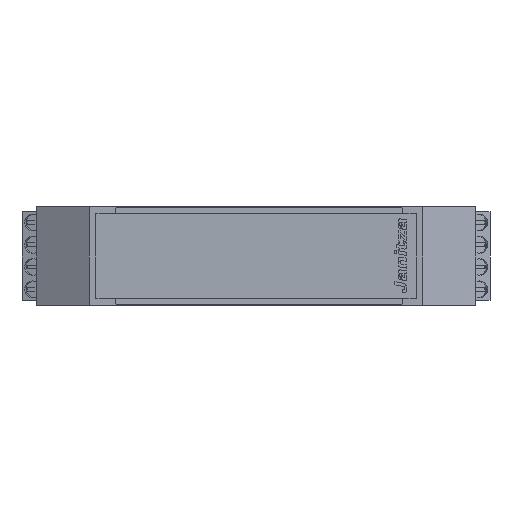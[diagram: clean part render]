
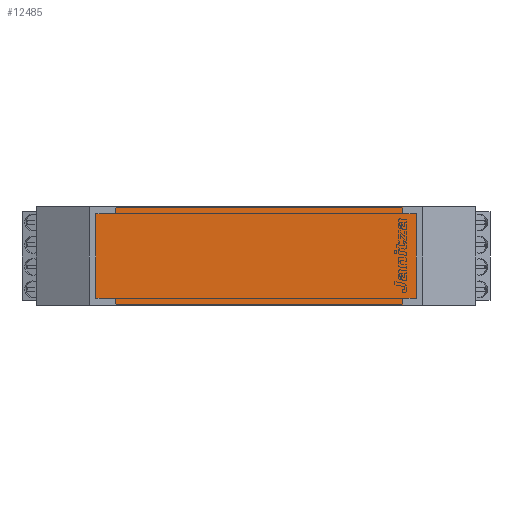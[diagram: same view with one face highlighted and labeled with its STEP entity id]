
A CAD part, left-side view. The second image highlights one B-rep face of the part: STEP entity #12485.
In plain terms, the highlighted planar face has unit normal (-1, 0, 0).
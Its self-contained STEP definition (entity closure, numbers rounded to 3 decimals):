
#948=FACE_OUTER_BOUND('',#1687,.T.);
#1687=EDGE_LOOP('',(#9707,#9708,#9709,#9710,#9711,#9712,#9713,#9714,#9715,
#9716,#9717,#9718));
#2837=LINE('',#18935,#4271);
#2841=LINE('',#18942,#4275);
#2844=LINE('',#18948,#4278);
#2847=LINE('',#18954,#4281);
#2850=LINE('',#18960,#4284);
#2853=LINE('',#18966,#4287);
#2856=LINE('',#18972,#4290);
#2859=LINE('',#18978,#4293);
#2862=LINE('',#18984,#4296);
#2865=LINE('',#18990,#4299);
#2868=LINE('',#18996,#4302);
#2870=LINE('',#18999,#4304);
#4271=VECTOR('',#15725,1000.);
#4275=VECTOR('',#15731,1000.);
#4278=VECTOR('',#15736,1000.);
#4281=VECTOR('',#15741,1000.);
#4284=VECTOR('',#15746,1000.);
#4287=VECTOR('',#15751,1000.);
#4290=VECTOR('',#15756,1000.);
#4293=VECTOR('',#15761,1000.);
#4296=VECTOR('',#15766,1000.);
#4299=VECTOR('',#15771,1000.);
#4302=VECTOR('',#15776,1000.);
#4304=VECTOR('',#15780,1000.);
#5455=VERTEX_POINT('',#18932);
#5456=VERTEX_POINT('',#18934);
#5458=VERTEX_POINT('',#18940);
#5460=VERTEX_POINT('',#18946);
#5462=VERTEX_POINT('',#18952);
#5464=VERTEX_POINT('',#18958);
#5466=VERTEX_POINT('',#18964);
#5468=VERTEX_POINT('',#18970);
#5470=VERTEX_POINT('',#18976);
#5472=VERTEX_POINT('',#18982);
#5474=VERTEX_POINT('',#18988);
#5476=VERTEX_POINT('',#18994);
#6942=EDGE_CURVE('',#5456,#5455,#2837,.T.);
#6946=EDGE_CURVE('',#5455,#5458,#2841,.T.);
#6949=EDGE_CURVE('',#5458,#5460,#2844,.T.);
#6952=EDGE_CURVE('',#5460,#5462,#2847,.T.);
#6955=EDGE_CURVE('',#5462,#5464,#2850,.T.);
#6958=EDGE_CURVE('',#5464,#5466,#2853,.T.);
#6961=EDGE_CURVE('',#5466,#5468,#2856,.T.);
#6964=EDGE_CURVE('',#5468,#5470,#2859,.T.);
#6967=EDGE_CURVE('',#5470,#5472,#2862,.T.);
#6970=EDGE_CURVE('',#5472,#5474,#2865,.T.);
#6973=EDGE_CURVE('',#5474,#5476,#2868,.T.);
#6975=EDGE_CURVE('',#5476,#5456,#2870,.T.);
#9707=ORIENTED_EDGE('',*,*,#6942,.T.);
#9708=ORIENTED_EDGE('',*,*,#6946,.T.);
#9709=ORIENTED_EDGE('',*,*,#6949,.T.);
#9710=ORIENTED_EDGE('',*,*,#6952,.T.);
#9711=ORIENTED_EDGE('',*,*,#6955,.T.);
#9712=ORIENTED_EDGE('',*,*,#6958,.T.);
#9713=ORIENTED_EDGE('',*,*,#6961,.T.);
#9714=ORIENTED_EDGE('',*,*,#6964,.T.);
#9715=ORIENTED_EDGE('',*,*,#6967,.T.);
#9716=ORIENTED_EDGE('',*,*,#6970,.T.);
#9717=ORIENTED_EDGE('',*,*,#6973,.T.);
#9718=ORIENTED_EDGE('',*,*,#6975,.T.);
#11587=PLANE('',#13475);
#12485=ADVANCED_FACE('',(#948),#11587,.F.);
#13475=AXIS2_PLACEMENT_3D('',#19000,#15781,#15782);
#15725=DIRECTION('',(0.,-1.,0.));
#15731=DIRECTION('',(0.,0.,1.));
#15736=DIRECTION('',(0.,-1.,0.));
#15741=DIRECTION('',(0.,0.,1.));
#15746=DIRECTION('',(0.,1.,0.));
#15751=DIRECTION('',(0.,0.,1.));
#15756=DIRECTION('',(0.,1.,0.));
#15761=DIRECTION('',(0.,0.,-1.));
#15766=DIRECTION('',(0.,1.,0.));
#15771=DIRECTION('',(0.,0.,-1.));
#15776=DIRECTION('',(0.,-1.,0.));
#15780=DIRECTION('',(0.,0.,-1.));
#15781=DIRECTION('center_axis',(1.,0.,0.));
#15782=DIRECTION('ref_axis',(0.,1.,0.));
#18932=CARTESIAN_POINT('',(-8.,16.5,0.));
#18934=CARTESIAN_POINT('',(-8.,81.5,0.));
#18935=CARTESIAN_POINT('',(-8.,16.5,0.));
#18940=CARTESIAN_POINT('',(-8.,16.5,1.5));
#18942=CARTESIAN_POINT('',(-8.,16.5,1.5));
#18946=CARTESIAN_POINT('',(-8.,13.5,1.5));
#18948=CARTESIAN_POINT('',(-8.,13.5,1.5));
#18952=CARTESIAN_POINT('',(-8.,13.5,20.7));
#18954=CARTESIAN_POINT('',(-8.,13.5,20.7));
#18958=CARTESIAN_POINT('',(-8.,16.5,20.7));
#18960=CARTESIAN_POINT('',(-8.,16.5,20.7));
#18964=CARTESIAN_POINT('',(-8.,16.5,22.2));
#18966=CARTESIAN_POINT('',(-8.,16.5,22.2));
#18970=CARTESIAN_POINT('',(-8.,81.5,22.2));
#18972=CARTESIAN_POINT('',(-8.,81.5,22.2));
#18976=CARTESIAN_POINT('',(-8.,81.5,20.7));
#18978=CARTESIAN_POINT('',(-8.,81.5,20.7));
#18982=CARTESIAN_POINT('',(-8.,86.,20.7));
#18984=CARTESIAN_POINT('',(-8.,86.,20.7));
#18988=CARTESIAN_POINT('',(-8.,86.,1.5));
#18990=CARTESIAN_POINT('',(-8.,86.,1.5));
#18994=CARTESIAN_POINT('',(-8.,81.5,1.5));
#18996=CARTESIAN_POINT('',(-8.,81.5,1.5));
#18999=CARTESIAN_POINT('',(-8.,81.5,0.));
#19000=CARTESIAN_POINT('Origin',(-8.,0.,0.));
